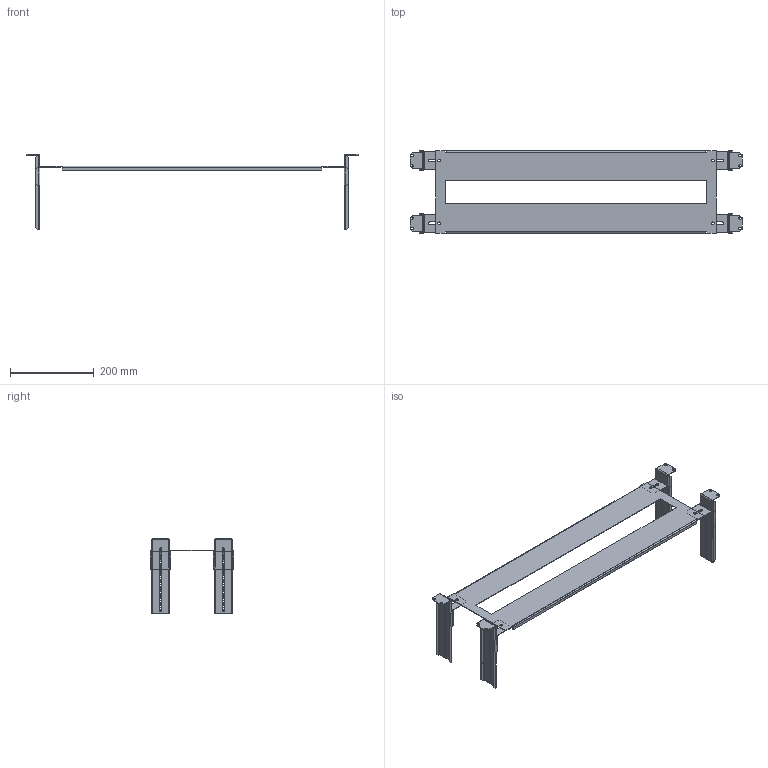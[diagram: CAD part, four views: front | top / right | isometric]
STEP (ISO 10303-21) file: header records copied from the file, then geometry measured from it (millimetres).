
FILE_DESCRIPTION(('STEP AP203'), '1');
FILE_NAME('Êîìïëåêò óñòàíîâêè ìîäóëüíûõ àâòîìàòîâ Â200õØ800 ìì OptiBox M 419158 ÊÝÀÇ', '', ('UNSPECIFIED'), ('UNSPECIFIED'), 'C3D Converter', 'C3D Toolkit', '');
FILE_SCHEMA(('CONFIG_CONTROL_DESIGN'));
Length unit declared in the file: millimetre
Bounding box: 795 x 199 x 180 mm (x, y, z)
Volume: 246205.7 mm3; surface area: 355576 mm2
Topology: 9 solids, 9 shells, 498 faces, 1232 edges, 752 vertices
Faces by surface type: plane 298, cylinder 200
Full cylindrical faces by diameter (mm): 4.6 x112, 6.3 x12
Entity records: 18552 total; most frequent: DIRECTION 2506, CARTESIAN_POINT 2359, ORIENTED_EDGE 2216, EDGE_CURVE 1108, AXIS2_PLACEMENT_3D 899, EDGE_LOOP 896, VERTEX_POINT 752, LINE 708
